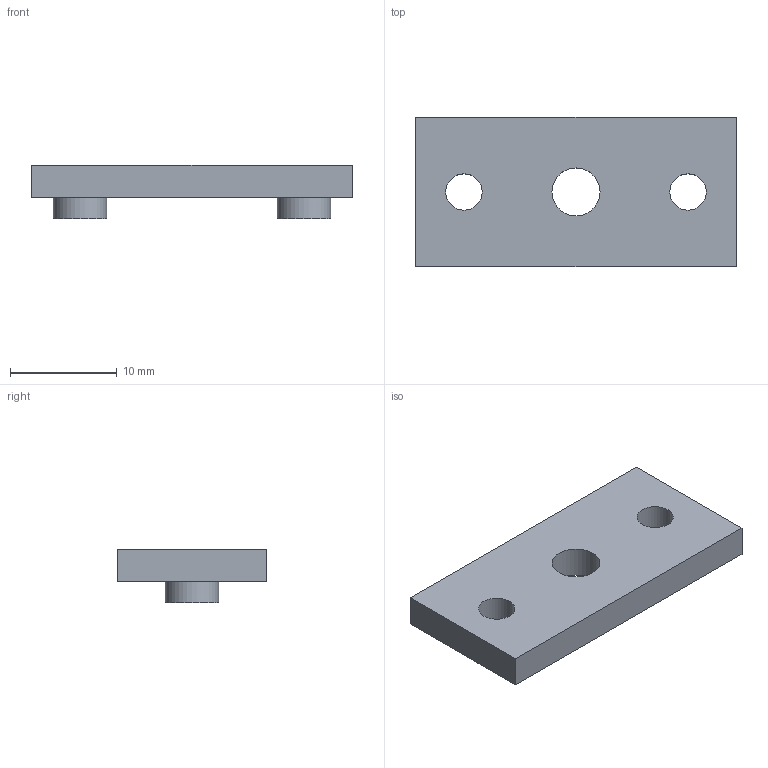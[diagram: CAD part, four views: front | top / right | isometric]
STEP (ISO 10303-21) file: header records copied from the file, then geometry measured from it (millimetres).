
FILE_DESCRIPTION(('Open CASCADE Model'),'2;1');
FILE_NAME('Open CASCADE Shape Model','2026-10-28T05:16:18',('Author'),( 'Open CASCADE'),'Open CASCADE STEP processor 7.8','Open CASCADE 7.8' ,'Unknown');
FILE_SCHEMA(('AUTOMOTIVE_DESIGN { 1 0 10303 214 1 1 1 1 }'));
Length unit declared in the file: millimetre
Products named in the file (1): Open CASCADE STEP translator 7.8 18
Bounding box: 30 x 14 x 5 mm (x, y, z)
Volume: 1200 mm3; surface area: 1247.9 mm2
Topology: 1 solids, 1 shells, 13 faces, 27 edges, 18 vertices
Faces by surface type: plane 8, cylinder 5
Full cylindrical faces by diameter (mm): 3.4 x2, 4.5 x1, 5 x2
Entity records: 724 total; most frequent: DIRECTION 119, CARTESIAN_POINT 113, LINE 61, VECTOR 61, ORIENTED_EDGE 54, PCURVE 54, DEFINITIONAL_REPRESENTATION 54, EDGE_CURVE 27
